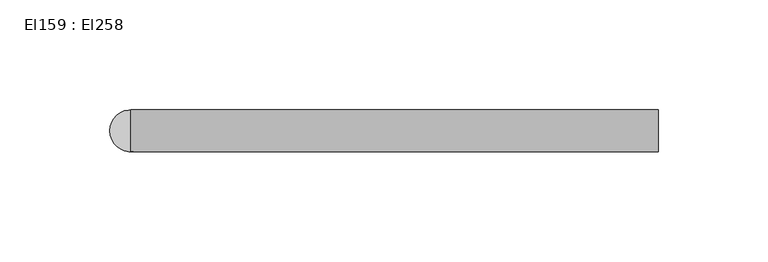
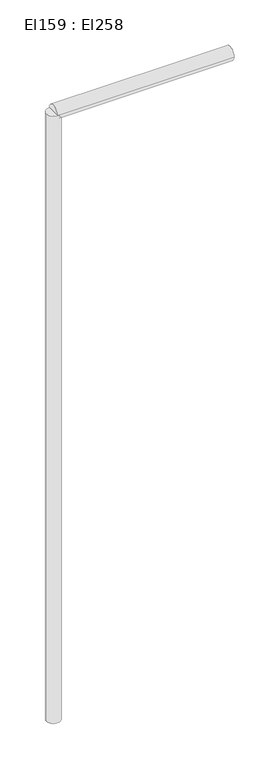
"""IFC4 building model written with IfcOpenShell, lengths in millimetres: cable carrier segment geometry, El159 : El258."""

from ifc_helpers import new_model, si_unit, point, frame, frame_2d, origin, place, context, project, spatial, circle_curve, trimmed, segment, composite_curve, outline, extrude, source, transform, mapped, element, save


def el159_el258_c4cb9bf2(model_context):
    return source(origin(), model_context, "Body", "SweptSolid", [
        extrude(outline(composite_curve([segment(trimmed(circle_curve(frame_2d((9649.7336511, 17716.0121745)), 9.5), [point((9640.2336511, 17716.0121745))], [point((9659.2336511, 17716.0121745))], False, "CARTESIAN"), True, "CONTINUOUS"), segment(trimmed(circle_curve(frame_2d((9649.7336511, 17716.0121745)), 9.5), [point((9659.2336511, 17716.0121745))], [point((9640.2336511, 17716.0121745))], False, "CARTESIAN"), True, "CONTINUOUS")], self_intersect=False)), frame((0.0, 0.0, 1830.0), z_axis=(0.0, 0.0, 1.0), x_axis=(1.0, 0.0, 0.0)), (0.0, 0.0, 1.0), 870.0),
        extrude(outline(composite_curve([segment(trimmed(circle_curve(frame_2d((17716.0121745, 2700.0)), 9.5), [point((17706.5121745, 2700.0))], [point((17725.5121745, 2700.0))], False, "CARTESIAN"), True, "CONTINUOUS"), segment(trimmed(circle_curve(frame_2d((17716.0121745, 2700.0)), 9.5), [point((17725.5121745, 2700.0))], [point((17706.5121745, 2700.0))], False, "CARTESIAN"), True, "CONTINUOUS")], self_intersect=False)), frame((9649.7326511, 0.0, 0.0), z_axis=(1.0, 0.0, 0.0), x_axis=(0.0, 1.0, 0.0)), (0.0, 0.0, 1.0), 239.783),
    ])


if __name__ == "__main__":
    model = new_model("IFC4")
    model_context = context("Model", 3, world=origin())
    ifc_project = project(units=[si_unit("LENGTHUNIT", "METRE", prefix="MILLI")], contexts=[model_context])
    site = spatial("IfcSite", under=ifc_project)
    building = spatial("IfcBuilding", under=site)
    placement = place(None, origin())
    el159_el258_shape = el159_el258_c4cb9bf2(model_context)
    element("IfcCableCarrierSegment", 1, ObjectType="El159 : El258", at=placement, inside=building, context=model_context, shape_type="MappedRepresentation", body=[
        mapped(el159_el258_shape, transform((0.0, 0.0, 0.0), x_axis=(1.0, 0.0, 0.0), y_axis=(0.0, 1.0, 0.0), z_axis=(0.0, 0.0, 1.0))),
    ])
    save(model, "model.ifc")
